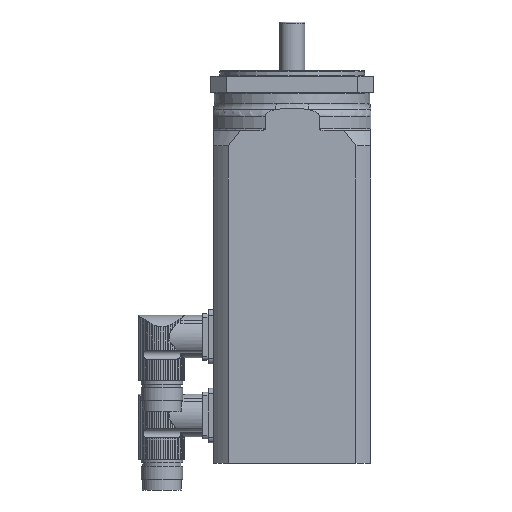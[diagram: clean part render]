
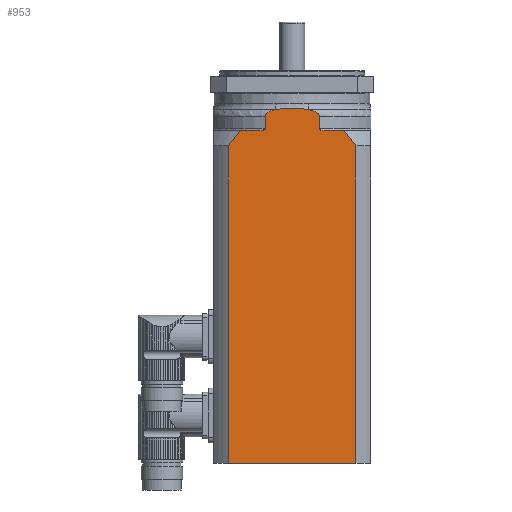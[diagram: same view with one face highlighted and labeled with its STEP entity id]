
A CAD part, front view. The second image highlights one B-rep face of the part: STEP entity #953.
In plain terms, the highlighted planar face has unit normal (0, -1, 0).
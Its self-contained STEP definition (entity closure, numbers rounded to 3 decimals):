
#156=PLANE('',#4769);
#441=LINE('',#6557,#685);
#468=LINE('',#6688,#712);
#470=LINE('',#6697,#714);
#471=LINE('',#6701,#715);
#478=LINE('',#6733,#722);
#485=LINE('',#6859,#729);
#487=LINE('',#6910,#731);
#685=VECTOR('',#5249,1.);
#712=VECTOR('',#5336,1.);
#714=VECTOR('',#5344,1.);
#715=VECTOR('',#5349,1.);
#722=VECTOR('',#5376,1.);
#729=VECTOR('',#5403,1.);
#731=VECTOR('',#5411,1.);
#953=ADVANCED_FACE('',(#1232),#156,.T.);
#1232=FACE_OUTER_BOUND('',#1486,.T.);
#1486=EDGE_LOOP('',(#2172,#2173,#2174,#2175,#2176,#2177,#2178,#2179,#2180,
#2181,#2182,#2183,#2184,#2185,#2186,#2187));
#2172=ORIENTED_EDGE('',*,*,#3905,.F.);
#2173=ORIENTED_EDGE('',*,*,#3955,.T.);
#2174=ORIENTED_EDGE('',*,*,#3844,.T.);
#2175=ORIENTED_EDGE('',*,*,#3956,.T.);
#2176=ORIENTED_EDGE('',*,*,#3957,.T.);
#2177=ORIENTED_EDGE('',*,*,#3958,.T.);
#2178=ORIENTED_EDGE('',*,*,#3856,.F.);
#2179=ORIENTED_EDGE('',*,*,#3959,.T.);
#2180=ORIENTED_EDGE('',*,*,#3951,.F.);
#2181=ORIENTED_EDGE('',*,*,#3960,.T.);
#2182=ORIENTED_EDGE('',*,*,#3911,.T.);
#2183=ORIENTED_EDGE('',*,*,#3961,.T.);
#2184=ORIENTED_EDGE('',*,*,#3909,.T.);
#2185=ORIENTED_EDGE('',*,*,#3962,.T.);
#2186=ORIENTED_EDGE('',*,*,#3925,.F.);
#2187=ORIENTED_EDGE('',*,*,#3963,.T.);
#3379=VERTEX_POINT('',#6528);
#3380=VERTEX_POINT('',#6529);
#3391=VERTEX_POINT('',#6558);
#3392=VERTEX_POINT('',#6559);
#3432=VERTEX_POINT('',#6687);
#3433=VERTEX_POINT('',#6689);
#3436=VERTEX_POINT('',#6696);
#3437=VERTEX_POINT('',#6698);
#3438=VERTEX_POINT('',#6702);
#3439=VERTEX_POINT('',#6703);
#3452=VERTEX_POINT('',#6732);
#3453=VERTEX_POINT('',#6734);
#3462=VERTEX_POINT('',#6860);
#3463=VERTEX_POINT('',#6861);
#3466=VERTEX_POINT('',#6882);
#3467=VERTEX_POINT('',#6887);
#3844=EDGE_CURVE('',#3379,#3380,#4519,.T.);
#3856=EDGE_CURVE('',#3391,#3392,#441,.T.);
#3905=EDGE_CURVE('',#3432,#3433,#468,.T.);
#3909=EDGE_CURVE('',#3437,#3436,#470,.T.);
#3911=EDGE_CURVE('',#3438,#3439,#471,.T.);
#3925=EDGE_CURVE('',#3452,#3453,#478,.T.);
#3951=EDGE_CURVE('',#3462,#3463,#485,.T.);
#3955=EDGE_CURVE('',#3432,#3379,#4539,.T.);
#3956=EDGE_CURVE('',#3380,#3466,#4540,.T.);
#3957=EDGE_CURVE('',#3466,#3467,#4541,.T.);
#3958=EDGE_CURVE('',#3467,#3392,#4542,.T.);
#3959=EDGE_CURVE('',#3391,#3463,#4543,.T.);
#3960=EDGE_CURVE('',#3462,#3438,#4544,.T.);
#3961=EDGE_CURVE('',#3439,#3437,#487,.T.);
#3962=EDGE_CURVE('',#3436,#3453,#4545,.T.);
#3963=EDGE_CURVE('',#3452,#3433,#4546,.T.);
#4519=B_SPLINE_CURVE_WITH_KNOTS('',3,(#6524,#6525,#6526,#6527),.UNSPECIFIED.,
.F.,.F.,(4,4),(0.,1.),.UNSPECIFIED.);
#4539=B_SPLINE_CURVE_WITH_KNOTS('',3,(#6868,#6869,#6870,#6871,#6872,#6873,
#6874,#6875),.UNSPECIFIED.,.F.,.F.,(4,2,2,4),(0.,0.25,0.5,1.),.UNSPECIFIED.);
#4540=B_SPLINE_CURVE_WITH_KNOTS('',3,(#6876,#6877,#6878,#6879,#6880,#6881),
.UNSPECIFIED.,.F.,.F.,(4,2,4),(0.,0.5,1.),.UNSPECIFIED.);
#4541=B_SPLINE_CURVE_WITH_KNOTS('',3,(#6883,#6884,#6885,#6886),.UNSPECIFIED.,
.F.,.F.,(4,4),(0.,1.),.UNSPECIFIED.);
#4542=B_SPLINE_CURVE_WITH_KNOTS('',3,(#6888,#6889,#6890,#6891,#6892,#6893,
#6894,#6895),.UNSPECIFIED.,.F.,.F.,(4,2,2,4),(0.,0.5,0.75,1.),.UNSPECIFIED.);
#4543=B_SPLINE_CURVE_WITH_KNOTS('',3,(#6896,#6897,#6898,#6899,#6900,#6901,
#6902,#6903,#6904,#6905),.UNSPECIFIED.,.F.,.F.,(4,2,2,2,4),(0.,0.125,0.25,
0.5,1.),.UNSPECIFIED.);
#4544=B_SPLINE_CURVE_WITH_KNOTS('',3,(#6906,#6907,#6908,#6909),.UNSPECIFIED.,
.F.,.F.,(4,4),(0.,1.),.UNSPECIFIED.);
#4545=B_SPLINE_CURVE_WITH_KNOTS('',3,(#6911,#6912,#6913,#6914),.UNSPECIFIED.,
.F.,.F.,(4,4),(0.,1.),.UNSPECIFIED.);
#4546=B_SPLINE_CURVE_WITH_KNOTS('',3,(#6915,#6916,#6917,#6918,#6919,#6920,
#6921,#6922,#6923,#6924),.UNSPECIFIED.,.F.,.F.,(4,2,2,2,4),(0.,0.5,0.75,
0.875,1.),.UNSPECIFIED.);
#4769=AXIS2_PLACEMENT_3D('',#6925,#5412,#5413);
#5249=DIRECTION('',(0.,0.,1.));
#5336=DIRECTION('',(0.,0.,-1.));
#5344=DIRECTION('',(0.,0.,1.));
#5349=DIRECTION('',(0.,0.,-1.));
#5376=DIRECTION('',(1.,0.,0.));
#5403=DIRECTION('',(1.,0.,0.));
#5411=DIRECTION('',(1.,0.,0.));
#5412=DIRECTION('',(0.,-1.,0.));
#5413=DIRECTION('',(1.,0.,0.));
#6524=CARTESIAN_POINT('',(9.548,-43.5,11.464));
#6525=CARTESIAN_POINT('',(9.436,-43.5,11.489));
#6526=CARTESIAN_POINT('',(9.323,-43.5,11.512));
#6527=CARTESIAN_POINT('',(9.211,-43.5,11.536));
#6528=CARTESIAN_POINT('',(9.548,-43.5,11.464));
#6529=CARTESIAN_POINT('',(9.211,-43.5,11.536));
#6557=CARTESIAN_POINT('',(-14.958,-43.5,0.));
#6558=CARTESIAN_POINT('',(-14.958,-43.5,1.));
#6559=CARTESIAN_POINT('',(-14.958,-43.5,7.929));
#6687=CARTESIAN_POINT('',(14.958,-43.5,7.929));
#6688=CARTESIAN_POINT('',(14.958,-43.5,0.));
#6689=CARTESIAN_POINT('',(14.958,-43.5,1.));
#6696=CARTESIAN_POINT('',(35.267,-43.5,-8.5));
#6697=CARTESIAN_POINT('',(35.267,-43.5,0.));
#6698=CARTESIAN_POINT('',(35.267,-43.5,-184.));
#6701=CARTESIAN_POINT('',(-35.267,-43.5,0.));
#6702=CARTESIAN_POINT('',(-35.267,-43.5,-8.5));
#6703=CARTESIAN_POINT('',(-35.267,-43.5,-184.));
#6732=CARTESIAN_POINT('',(17.797,-43.5,0.));
#6733=CARTESIAN_POINT('',(-43.5,-43.5,0.));
#6734=CARTESIAN_POINT('',(28.558,-43.5,0.));
#6859=CARTESIAN_POINT('',(-43.5,-43.5,0.));
#6860=CARTESIAN_POINT('',(-28.558,-43.5,0.));
#6861=CARTESIAN_POINT('',(-17.797,-43.5,0.));
#6868=CARTESIAN_POINT('',(14.958,-43.5,7.929));
#6869=CARTESIAN_POINT('',(14.958,-43.5,8.512));
#6870=CARTESIAN_POINT('',(14.631,-43.5,9.041));
#6871=CARTESIAN_POINT('',(13.812,-43.5,9.842));
#6872=CARTESIAN_POINT('',(13.315,-43.5,10.149));
#6873=CARTESIAN_POINT('',(11.782,-43.5,10.909));
#6874=CARTESIAN_POINT('',(10.67,-43.5,11.224));
#6875=CARTESIAN_POINT('',(9.548,-43.5,11.464));
#6876=CARTESIAN_POINT('',(9.211,-43.5,11.536));
#6877=CARTESIAN_POINT('',(6.182,-43.5,12.163));
#6878=CARTESIAN_POINT('',(3.071,-43.5,12.502));
#6879=CARTESIAN_POINT('',(-3.141,-43.5,12.497));
#6880=CARTESIAN_POINT('',(-6.197,-43.5,12.16));
#6881=CARTESIAN_POINT('',(-9.211,-43.5,11.536));
#6882=CARTESIAN_POINT('',(-9.211,-43.5,11.536));
#6883=CARTESIAN_POINT('',(-9.211,-43.5,11.536));
#6884=CARTESIAN_POINT('',(-9.323,-43.5,11.512));
#6885=CARTESIAN_POINT('',(-9.436,-43.5,11.489));
#6886=CARTESIAN_POINT('',(-9.548,-43.5,11.464));
#6887=CARTESIAN_POINT('',(-9.548,-43.5,11.464));
#6888=CARTESIAN_POINT('',(-9.548,-43.5,11.464));
#6889=CARTESIAN_POINT('',(-10.67,-43.5,11.224));
#6890=CARTESIAN_POINT('',(-11.777,-43.5,10.912));
#6891=CARTESIAN_POINT('',(-13.321,-43.5,10.146));
#6892=CARTESIAN_POINT('',(-13.816,-43.5,9.839));
#6893=CARTESIAN_POINT('',(-14.632,-43.5,9.038));
#6894=CARTESIAN_POINT('',(-14.958,-43.5,8.511));
#6895=CARTESIAN_POINT('',(-14.958,-43.5,7.929));
#6896=CARTESIAN_POINT('',(-14.958,-43.5,1.));
#6897=CARTESIAN_POINT('',(-14.958,-43.5,0.864));
#6898=CARTESIAN_POINT('',(-15.045,-43.5,0.746));
#6899=CARTESIAN_POINT('',(-15.243,-43.5,0.567));
#6900=CARTESIAN_POINT('',(-15.36,-43.5,0.498));
#6901=CARTESIAN_POINT('',(-15.716,-43.5,0.322));
#6902=CARTESIAN_POINT('',(-15.971,-43.5,0.242));
#6903=CARTESIAN_POINT('',(-16.743,-43.5,0.054));
#6904=CARTESIAN_POINT('',(-17.266,-43.5,0.));
#6905=CARTESIAN_POINT('',(-17.797,-43.5,0.));
#6906=CARTESIAN_POINT('',(-28.558,-43.5,0.));
#6907=CARTESIAN_POINT('',(-30.896,-43.5,-2.753));
#6908=CARTESIAN_POINT('',(-33.118,-43.5,-5.598));
#6909=CARTESIAN_POINT('',(-35.267,-43.5,-8.5));
#6910=CARTESIAN_POINT('',(-43.5,-43.5,-184.));
#6911=CARTESIAN_POINT('',(35.267,-43.5,-8.5));
#6912=CARTESIAN_POINT('',(33.118,-43.5,-5.598));
#6913=CARTESIAN_POINT('',(30.896,-43.5,-2.753));
#6914=CARTESIAN_POINT('',(28.558,-43.5,0.));
#6915=CARTESIAN_POINT('',(17.797,-43.5,0.));
#6916=CARTESIAN_POINT('',(17.266,-43.5,0.));
#6917=CARTESIAN_POINT('',(16.743,-43.5,0.054));
#6918=CARTESIAN_POINT('',(15.975,-43.5,0.241));
#6919=CARTESIAN_POINT('',(15.718,-43.5,0.321));
#6920=CARTESIAN_POINT('',(15.359,-43.5,0.499));
#6921=CARTESIAN_POINT('',(15.244,-43.5,0.567));
#6922=CARTESIAN_POINT('',(15.044,-43.5,0.746));
#6923=CARTESIAN_POINT('',(14.958,-43.5,0.864));
#6924=CARTESIAN_POINT('',(14.958,-43.5,1.));
#6925=CARTESIAN_POINT('',(-43.5,-43.5,0.));
